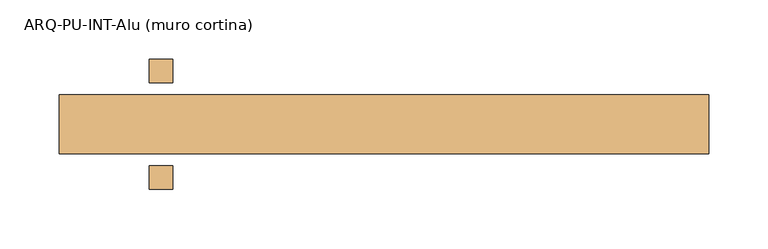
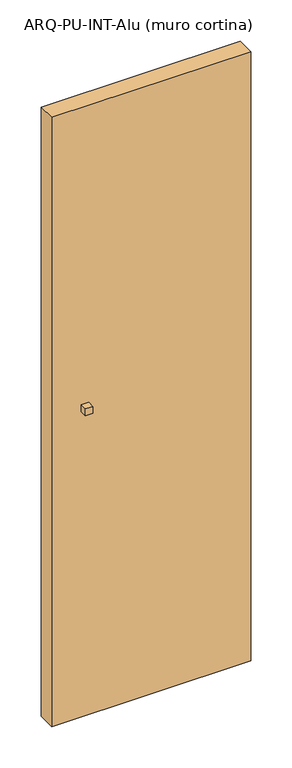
"""IFC4 building model written with IfcOpenShell, lengths in millimetres: door geometry, ARQ-PU-INT-Alu (muro cortina) : ARQ-PU-IN-Alu-sshh."""

from ifc_helpers import new_model, si_unit, frame, origin, origin_with_axes, place, context, project, spatial, polyline, outline, extrude, source, transform, mapped, element, save


def arq_pu_int_alu_muro_cortina_c3b06130(model_context):
    return source(origin(), model_context, "Body", "SweptSolid", [
        extrude(outline(polyline([(-178.7863105, 30.0), (-178.7863105, 10.0), (-198.7863105, 10.0), (-198.7863105, 30.0), (-178.7863105, 30.0)])), frame((0.0, 0.0, 900.0), z_axis=(0.0, 0.0, 1.0), x_axis=(1.0, 0.0, 0.0)), (0.0, 0.0, 1.0), 20.0),
        extrude(outline(polyline([(-198.7863105, -80.0), (-198.7863105, -60.0), (-178.7863105, -60.0), (-178.7863105, -80.0), (-198.7863105, -80.0)])), frame((0.0, 0.0, 900.0), z_axis=(0.0, 0.0, 1.0), x_axis=(1.0, 0.0, 0.0)), (0.0, 0.0, 1.0), 20.0),
        extrude(outline(polyline([(274.9863105, -50.0), (-274.9863105, -50.0), (-274.9863105, 0.0), (274.9863105, 0.0), (274.9863105, -50.0)])), origin_with_axes(), (0.0, 0.0, 1.0), 1780.0),
    ])


if __name__ == "__main__":
    model = new_model("IFC4")
    model_context = context("Model", 3, world=origin())
    ifc_project = project(units=[si_unit("LENGTHUNIT", "METRE", prefix="MILLI")], contexts=[model_context])
    site = spatial("IfcSite", under=ifc_project)
    building = spatial("IfcBuilding", under=site)
    placement = place(None, origin())
    arq_pu_int_alu_muro_cortina_shape = arq_pu_int_alu_muro_cortina_c3b06130(model_context)
    element("IfcDoor", 1, ObjectType="ARQ-PU-INT-Alu (muro cortina) : ARQ-PU-IN-Alu-sshh", at=placement, inside=building, context=model_context, shape_type="MappedRepresentation", body=[
        mapped(arq_pu_int_alu_muro_cortina_shape, transform((0.0, 0.0, 0.0), x_axis=(1.0, 0.0, 0.0), y_axis=(0.0, 1.0, 0.0), z_axis=(0.0, 0.0, 1.0))),
    ])
    save(model, "model.ifc")
